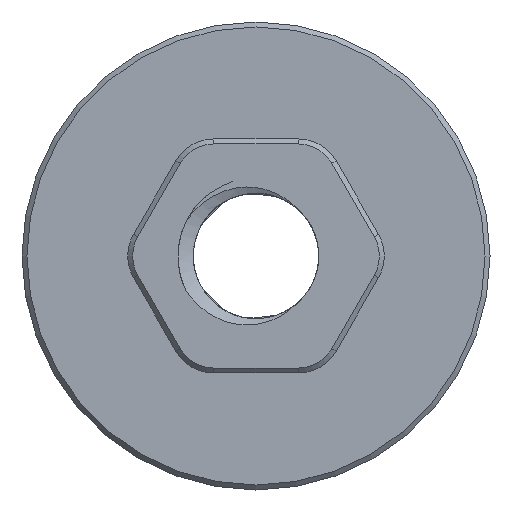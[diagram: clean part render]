
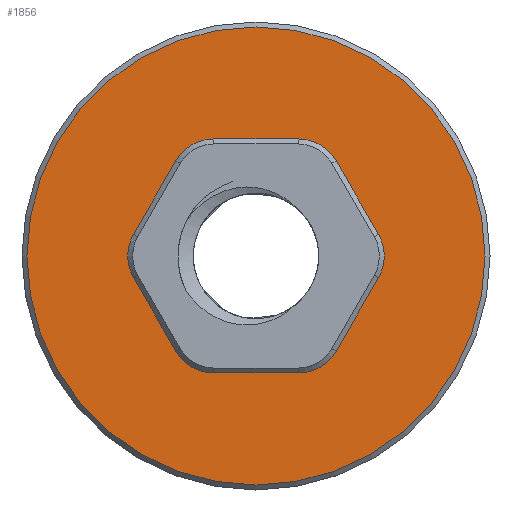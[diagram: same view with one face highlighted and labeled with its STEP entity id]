
A CAD part, front view. The second image highlights one B-rep face of the part: STEP entity #1856.
In plain terms, the highlighted planar face has unit normal (0, -1, 0).
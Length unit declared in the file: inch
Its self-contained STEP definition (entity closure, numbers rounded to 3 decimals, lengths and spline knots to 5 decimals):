
#16=FACE_BOUND('',#256,.T.);
#48=PLANE('',#2008);
#151=FACE_OUTER_BOUND('',#255,.T.);
#255=EDGE_LOOP('',(#1651));
#256=EDGE_LOOP('',(#1652,#1653,#1654,#1655,#1656,#1657,#1658,#1659,#1660,
#1661,#1662,#1663));
#275=CIRCLE('',#1954,0.367);
#294=CIRCLE('',#1990,0.07);
#295=CIRCLE('',#1992,0.07);
#296=CIRCLE('',#1994,0.07);
#297=CIRCLE('',#1996,0.07);
#298=CIRCLE('',#1998,0.07);
#299=CIRCLE('',#2000,0.07);
#538=LINE('',#6749,#646);
#539=LINE('',#6751,#647);
#540=LINE('',#6753,#648);
#541=LINE('',#6755,#649);
#542=LINE('',#6757,#650);
#543=LINE('',#6759,#651);
#646=VECTOR('',#2373,39.37008);
#647=VECTOR('',#2376,39.37008);
#648=VECTOR('',#2379,39.37008);
#649=VECTOR('',#2382,39.37008);
#650=VECTOR('',#2385,39.37008);
#651=VECTOR('',#2388,39.37008);
#794=VERTEX_POINT('',#6619);
#824=VERTEX_POINT('',#6713);
#825=VERTEX_POINT('',#6715);
#826=VERTEX_POINT('',#6719);
#827=VERTEX_POINT('',#6721);
#828=VERTEX_POINT('',#6725);
#829=VERTEX_POINT('',#6727);
#830=VERTEX_POINT('',#6731);
#831=VERTEX_POINT('',#6733);
#832=VERTEX_POINT('',#6737);
#833=VERTEX_POINT('',#6739);
#834=VERTEX_POINT('',#6743);
#835=VERTEX_POINT('',#6745);
#1049=EDGE_CURVE('',#794,#794,#275,.T.);
#1097=EDGE_CURVE('',#824,#825,#294,.T.);
#1100=EDGE_CURVE('',#826,#827,#295,.T.);
#1103=EDGE_CURVE('',#828,#829,#296,.T.);
#1106=EDGE_CURVE('',#830,#831,#297,.T.);
#1109=EDGE_CURVE('',#832,#833,#298,.T.);
#1112=EDGE_CURVE('',#834,#835,#299,.T.);
#1113=EDGE_CURVE('',#826,#829,#538,.T.);
#1114=EDGE_CURVE('',#824,#827,#539,.T.);
#1115=EDGE_CURVE('',#834,#825,#540,.T.);
#1116=EDGE_CURVE('',#832,#835,#541,.T.);
#1117=EDGE_CURVE('',#830,#833,#542,.T.);
#1118=EDGE_CURVE('',#828,#831,#543,.T.);
#1651=ORIENTED_EDGE('',*,*,#1049,.T.);
#1652=ORIENTED_EDGE('',*,*,#1118,.F.);
#1653=ORIENTED_EDGE('',*,*,#1103,.T.);
#1654=ORIENTED_EDGE('',*,*,#1113,.F.);
#1655=ORIENTED_EDGE('',*,*,#1100,.T.);
#1656=ORIENTED_EDGE('',*,*,#1114,.F.);
#1657=ORIENTED_EDGE('',*,*,#1097,.T.);
#1658=ORIENTED_EDGE('',*,*,#1115,.F.);
#1659=ORIENTED_EDGE('',*,*,#1112,.T.);
#1660=ORIENTED_EDGE('',*,*,#1116,.F.);
#1661=ORIENTED_EDGE('',*,*,#1109,.T.);
#1662=ORIENTED_EDGE('',*,*,#1117,.F.);
#1663=ORIENTED_EDGE('',*,*,#1106,.T.);
#1856=ADVANCED_FACE('',(#151,#16),#48,.F.);
#1954=AXIS2_PLACEMENT_3D('',#6621,#2238,#2239);
#1990=AXIS2_PLACEMENT_3D('',#6717,#2339,#2340);
#1992=AXIS2_PLACEMENT_3D('',#6723,#2345,#2346);
#1994=AXIS2_PLACEMENT_3D('',#6729,#2351,#2352);
#1996=AXIS2_PLACEMENT_3D('',#6735,#2357,#2358);
#1998=AXIS2_PLACEMENT_3D('',#6741,#2363,#2364);
#2000=AXIS2_PLACEMENT_3D('',#6747,#2369,#2370);
#2008=AXIS2_PLACEMENT_3D('',#6761,#2391,#2392);
#2238=DIRECTION('center_axis',(0.,-1.,0.));
#2239=DIRECTION('ref_axis',(0.,0.,1.));
#2339=DIRECTION('center_axis',(0.,1.,0.));
#2340=DIRECTION('ref_axis',(0.,0.,1.));
#2345=DIRECTION('center_axis',(0.,1.,0.));
#2346=DIRECTION('ref_axis',(0.,0.,1.));
#2351=DIRECTION('center_axis',(0.,1.,0.));
#2352=DIRECTION('ref_axis',(0.,0.,1.));
#2357=DIRECTION('center_axis',(0.,1.,0.));
#2358=DIRECTION('ref_axis',(0.,0.,1.));
#2363=DIRECTION('center_axis',(0.,1.,0.));
#2364=DIRECTION('ref_axis',(0.,0.,1.));
#2369=DIRECTION('center_axis',(0.,1.,0.));
#2370=DIRECTION('ref_axis',(0.,0.,1.));
#2373=DIRECTION('',(0.5,0.,-0.866));
#2376=DIRECTION('',(-0.5,0.,-0.866));
#2379=DIRECTION('',(-1.,0.,0.));
#2382=DIRECTION('',(-0.5,0.,0.866));
#2385=DIRECTION('',(0.5,0.,0.866));
#2388=DIRECTION('',(1.,0.,0.));
#2391=DIRECTION('center_axis',(0.,1.,0.));
#2392=DIRECTION('ref_axis',(1.,0.,0.));
#6619=CARTESIAN_POINT('',(0.,0.,-0.367));
#6621=CARTESIAN_POINT('Origin',(0.,0.,0.));
#6713=CARTESIAN_POINT('',(-0.12846,0.,0.1525));
#6715=CARTESIAN_POINT('',(-0.06784,0.,0.1875));
#6717=CARTESIAN_POINT('Origin',(-0.06784,0.,0.1175));
#6719=CARTESIAN_POINT('',(-0.1963,0.,-0.035));
#6721=CARTESIAN_POINT('',(-0.1963,0.,0.035));
#6723=CARTESIAN_POINT('Origin',(-0.13568,0.,0.));
#6725=CARTESIAN_POINT('',(-0.06784,0.,-0.1875));
#6727=CARTESIAN_POINT('',(-0.12846,0.,-0.1525));
#6729=CARTESIAN_POINT('Origin',(-0.06784,0.,-0.1175));
#6731=CARTESIAN_POINT('',(0.12846,0.,-0.1525));
#6733=CARTESIAN_POINT('',(0.06784,0.,-0.1875));
#6735=CARTESIAN_POINT('Origin',(0.06784,0.,-0.1175));
#6737=CARTESIAN_POINT('',(0.1963,0.,0.035));
#6739=CARTESIAN_POINT('',(0.1963,0.,-0.035));
#6741=CARTESIAN_POINT('Origin',(0.13568,0.,0.));
#6743=CARTESIAN_POINT('',(0.06784,0.,0.1875));
#6745=CARTESIAN_POINT('',(0.12846,0.,0.1525));
#6747=CARTESIAN_POINT('Origin',(0.06784,0.,0.1175));
#6749=CARTESIAN_POINT('',(-0.21651,0.,0.));
#6751=CARTESIAN_POINT('',(-0.10825,0.,0.1875));
#6753=CARTESIAN_POINT('',(0.10825,0.,0.1875));
#6755=CARTESIAN_POINT('',(0.21651,0.,0.));
#6757=CARTESIAN_POINT('',(0.10825,0.,-0.1875));
#6759=CARTESIAN_POINT('',(-0.10825,0.,-0.1875));
#6761=CARTESIAN_POINT('Origin',(0.,0.,0.));
